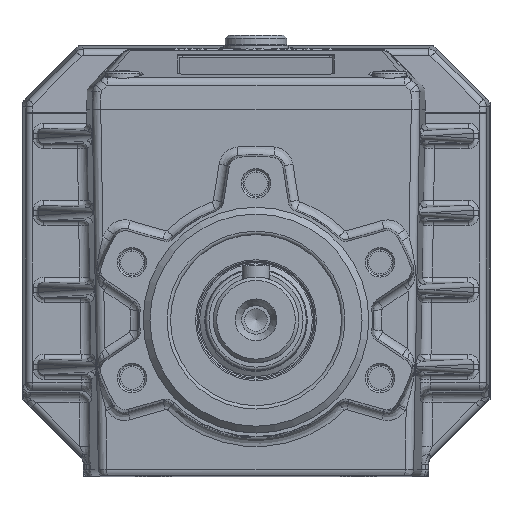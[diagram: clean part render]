
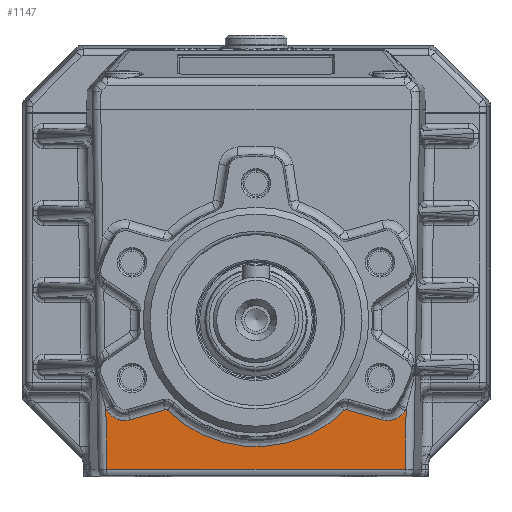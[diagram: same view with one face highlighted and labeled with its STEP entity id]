
A CAD part, top view. The second image highlights one B-rep face of the part: STEP entity #1147.
In plain terms, the highlighted planar face has unit normal (0, -0.018, 1).
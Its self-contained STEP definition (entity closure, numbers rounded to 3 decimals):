
#1147 = ADVANCED_FACE( '', ( #3249 ), #3250, .T. );
#3249 = FACE_OUTER_BOUND( '', #6812, .T. );
#3250 = PLANE( '', #6813 );
#6812 = EDGE_LOOP( '', ( #15819, #15820, #15821, #15822, #15823, #15824, #15825, #15826, #15827, #15828, #15829, #15830 ) );
#6813 = AXIS2_PLACEMENT_3D( '', #15831, #15832, #15833 );
#15819 = ORIENTED_EDGE( '', *, *, #23765, .T. );
#15820 = ORIENTED_EDGE( '', *, *, #23695, .F. );
#15821 = ORIENTED_EDGE( '', *, *, #23766, .F. );
#15822 = ORIENTED_EDGE( '', *, *, #23767, .F. );
#15823 = ORIENTED_EDGE( '', *, *, #23768, .F. );
#15824 = ORIENTED_EDGE( '', *, *, #23769, .F. );
#15825 = ORIENTED_EDGE( '', *, *, #23770, .T. );
#15826 = ORIENTED_EDGE( '', *, *, #23771, .F. );
#15827 = ORIENTED_EDGE( '', *, *, #23772, .T. );
#15828 = ORIENTED_EDGE( '', *, *, #23773, .F. );
#15829 = ORIENTED_EDGE( '', *, *, #23774, .T. );
#15830 = ORIENTED_EDGE( '', *, *, #23775, .F. );
#15831 = CARTESIAN_POINT( '', ( 0., 61.7, -14. ) );
#15832 = DIRECTION( '', ( 0., -0.017, 1. ) );
#15833 = DIRECTION( '', ( 0., -1., -0.017 ) );
#23695 = EDGE_CURVE( '', #27144, #27146, #27147, .T. );
#23765 = EDGE_CURVE( '', #27265, #27146, #27266, .T. );
#23766 = EDGE_CURVE( '', #27267, #27144, #27268, .T. );
#23767 = EDGE_CURVE( '', #27269, #27267, #27270, .T. );
#23768 = EDGE_CURVE( '', #27271, #27269, #27272, .T. );
#23769 = EDGE_CURVE( '', #27273, #27271, #27274, .T. );
#23770 = EDGE_CURVE( '', #27273, #27275, #27276, .T. );
#23771 = EDGE_CURVE( '', #27277, #27275, #27278, .T. );
#23772 = EDGE_CURVE( '', #27277, #27279, #27280, .T. );
#23773 = EDGE_CURVE( '', #27281, #27279, #27282, .T. );
#23774 = EDGE_CURVE( '', #27281, #27283, #27284, .T. );
#23775 = EDGE_CURVE( '', #27265, #27283, #27285, .T. );
#27144 = VERTEX_POINT( '', #33018 );
#27146 = VERTEX_POINT( '', #33020 );
#27147 = ELLIPSE( '', #33021, 50.948, 50.94 );
#27265 = VERTEX_POINT( '', #33245 );
#27266 = B_SPLINE_CURVE_WITH_KNOTS( '', 3, ( #33246, #33247, #33248, #33249, #33250 ), .UNSPECIFIED., .F., .F., ( 4, 1, 4 ), ( 0., 0.004, 0.008 ), .UNSPECIFIED. );
#27267 = VERTEX_POINT( '', #33251 );
#27268 = LINE( '', #33252, #33253 );
#27269 = VERTEX_POINT( '', #33254 );
#27270 = LINE( '', #33255, #33256 );
#27271 = VERTEX_POINT( '', #33257 );
#27272 = LINE( '', #33258, #33259 );
#27273 = VERTEX_POINT( '', #33260 );
#27274 = ELLIPSE( '', #33261, 50.948, 50.94 );
#27275 = VERTEX_POINT( '', #33262 );
#27276 = B_SPLINE_CURVE_WITH_KNOTS( '', 3, ( #33263, #33264, #33265, #33266, #33267 ), .UNSPECIFIED., .F., .F., ( 4, 1, 4 ), ( 0., 0.004, 0.008 ), .UNSPECIFIED. );
#27277 = VERTEX_POINT( '', #33268 );
#27278 = LINE( '', #33269, #33270 );
#27279 = VERTEX_POINT( '', #33271 );
#27280 = CIRCLE( '', #33272, 0.506 );
#27281 = VERTEX_POINT( '', #33273 );
#27282 = B_SPLINE_CURVE_WITH_KNOTS( '', 3, ( #33274, #33275, #33276, #33277, #33278, #33279, #33280, #33281, #33282, #33283, #33284, #33285, #33286, #33287, #33288, #33289, #33290, #33291, #33292, #33293, #33294, #33295, #33296, #33297, #33298, #33299, #33300 ), .UNSPECIFIED., .F., .F., ( 4, 1, 1, 1, 1, 1, 1, 1, 1, 1, 1, 1, 1, 1, 1, 1, 1, 1, 1, 1, 1, 1, 1, 1, 4 ), ( 0., 0.009, 0.024, 0.045, 0.071, 0.109, 0.143, 0.166, 0.214, 0.286, 0.357, 0.429, 0.5, 0.571, 0.678, 0.732, 0.786, 0.839, 0.864, 0.893, 0.916, 0.946, 0.969, 0.987, 1. ), .UNSPECIFIED. );
#27283 = VERTEX_POINT( '', #33301 );
#27284 = CIRCLE( '', #33302, 0.506 );
#27285 = LINE( '', #33303, #33304 );
#33018 = CARTESIAN_POINT( '', ( -43.891, -25.85, -15.528 ) );
#33020 = CARTESIAN_POINT( '', ( -43.552, -26.417, -15.538 ) );
#33021 = AXIS2_PLACEMENT_3D( '', #44853, #44854, #44855 );
#33245 = CARTESIAN_POINT( '', ( -36.778, -29.069, -15.584 ) );
#33246 = CARTESIAN_POINT( '', ( -36.778, -29.069, -15.584 ) );
#33247 = CARTESIAN_POINT( '', ( -38.042, -29.431, -15.591 ) );
#33248 = CARTESIAN_POINT( '', ( -40.778, -29.29, -15.588 ) );
#33249 = CARTESIAN_POINT( '', ( -42.871, -27.541, -15.558 ) );
#33250 = CARTESIAN_POINT( '', ( -43.552, -26.417, -15.538 ) );
#33251 = CARTESIAN_POINT( '', ( -43.59, -43.552, -15.837 ) );
#33252 = CARTESIAN_POINT( '', ( -45.367, 60.929, -14.013 ) );
#33253 = VECTOR( '', #44934, 1000. );
#33254 = CARTESIAN_POINT( '', ( 43.59, -43.552, -15.837 ) );
#33255 = CARTESIAN_POINT( '', ( 0., -43.552, -15.837 ) );
#33256 = VECTOR( '', #44935, 1000. );
#33257 = CARTESIAN_POINT( '', ( 43.891, -25.85, -15.528 ) );
#33258 = CARTESIAN_POINT( '', ( 45.367, 60.929, -14.013 ) );
#33259 = VECTOR( '', #44936, 1000. );
#33260 = CARTESIAN_POINT( '', ( 43.552, -26.417, -15.538 ) );
#33261 = AXIS2_PLACEMENT_3D( '', #44937, #44938, #44939 );
#33262 = CARTESIAN_POINT( '', ( 36.778, -29.069, -15.584 ) );
#33263 = CARTESIAN_POINT( '', ( 43.552, -26.417, -15.538 ) );
#33264 = CARTESIAN_POINT( '', ( 42.871, -27.541, -15.558 ) );
#33265 = CARTESIAN_POINT( '', ( 40.766, -29.295, -15.588 ) );
#33266 = CARTESIAN_POINT( '', ( 38.042, -29.431, -15.591 ) );
#33267 = CARTESIAN_POINT( '', ( 36.778, -29.069, -15.584 ) );
#33268 = CARTESIAN_POINT( '', ( 26.485, -26.115, -15.533 ) );
#33269 = CARTESIAN_POINT( '', ( -21.274, -12.409, -15.294 ) );
#33270 = VECTOR( '', #44940, 1000. );
#33271 = CARTESIAN_POINT( '', ( 25.996, -26.24, -15.535 ) );
#33272 = AXIS2_PLACEMENT_3D( '', #44941, #44942, #44943 );
#33273 = CARTESIAN_POINT( '', ( -25.996, -26.24, -15.535 ) );
#33274 = CARTESIAN_POINT( '', ( -25.996, -26.24, -15.535 ) );
#33275 = CARTESIAN_POINT( '', ( -25.872, -26.361, -15.537 ) );
#33276 = CARTESIAN_POINT( '', ( -25.544, -26.684, -15.543 ) );
#33277 = CARTESIAN_POINT( '', ( -24.917, -27.272, -15.553 ) );
#33278 = CARTESIAN_POINT( '', ( -24.021, -28.07, -15.567 ) );
#33279 = CARTESIAN_POINT( '', ( -22.761, -29.108, -15.585 ) );
#33280 = CARTESIAN_POINT( '', ( -21.247, -30.235, -15.605 ) );
#33281 = CARTESIAN_POINT( '', ( -19.729, -31.238, -15.622 ) );
#33282 = CARTESIAN_POINT( '', ( -17.99, -32.279, -15.64 ) );
#33283 = CARTESIAN_POINT( '', ( -15.557, -33.556, -15.663 ) );
#33284 = CARTESIAN_POINT( '', ( -12.154, -34.956, -15.687 ) );
#33285 = CARTESIAN_POINT( '', ( -8.187, -36.091, -15.707 ) );
#33286 = CARTESIAN_POINT( '', ( -4.119, -36.778, -15.719 ) );
#33287 = CARTESIAN_POINT( '', ( 0., -37.007, -15.723 ) );
#33288 = CARTESIAN_POINT( '', ( 4.803, -36.74, -15.718 ) );
#33289 = CARTESIAN_POINT( '', ( 9.202, -35.871, -15.703 ) );
#33290 = CARTESIAN_POINT( '', ( 13.112, -34.572, -15.68 ) );
#33291 = CARTESIAN_POINT( '', ( 15.955, -33.357, -15.659 ) );
#33292 = CARTESIAN_POINT( '', ( 18.195, -32.168, -15.638 ) );
#33293 = CARTESIAN_POINT( '', ( 19.952, -31.094, -15.62 ) );
#33294 = CARTESIAN_POINT( '', ( 21.178, -30.273, -15.605 ) );
#33295 = CARTESIAN_POINT( '', ( 22.458, -29.337, -15.589 ) );
#33296 = CARTESIAN_POINT( '', ( 23.598, -28.428, -15.573 ) );
#33297 = CARTESIAN_POINT( '', ( 24.623, -27.539, -15.558 ) );
#33298 = CARTESIAN_POINT( '', ( 25.381, -26.842, -15.545 ) );
#33299 = CARTESIAN_POINT( '', ( 25.811, -26.421, -15.538 ) );
#33300 = CARTESIAN_POINT( '', ( 25.996, -26.24, -15.535 ) );
#33301 = CARTESIAN_POINT( '', ( -26.485, -26.115, -15.533 ) );
#33302 = AXIS2_PLACEMENT_3D( '', #44944, #44945, #44946 );
#33303 = CARTESIAN_POINT( '', ( 21.274, -12.409, -15.294 ) );
#33304 = VECTOR( '', #44947, 1000. );
#44853 = CARTESIAN_POINT( '', ( 0., 0.005, -15.077 ) );
#44854 = DIRECTION( '', ( 0., -0.017, 1. ) );
#44855 = DIRECTION( '', ( 0., -1., -0.017 ) );
#44934 = DIRECTION( '', ( -0.017, 1., 0.017 ) );
#44935 = DIRECTION( '', ( -1., 0., 0. ) );
#44936 = DIRECTION( '', ( -0.017, -1., -0.017 ) );
#44937 = CARTESIAN_POINT( '', ( 0., 0.005, -15.077 ) );
#44938 = DIRECTION( '', ( 0., -0.017, 1. ) );
#44939 = DIRECTION( '', ( 0., -1., -0.017 ) );
#44940 = DIRECTION( '', ( 0.961, -0.276, -0.005 ) );
#44941 = CARTESIAN_POINT( '', ( 26.349, -26.602, -15.541 ) );
#44942 = DIRECTION( '', ( 0., -0.017, 1. ) );
#44943 = DIRECTION( '', ( 0.269, 0.963, 0.017 ) );
#44944 = CARTESIAN_POINT( '', ( -26.349, -26.602, -15.541 ) );
#44945 = DIRECTION( '', ( 0., -0.017, 1. ) );
#44946 = DIRECTION( '', ( 0.699, 0.715, 0.012 ) );
#44947 = DIRECTION( '', ( 0.961, 0.276, 0.005 ) );
